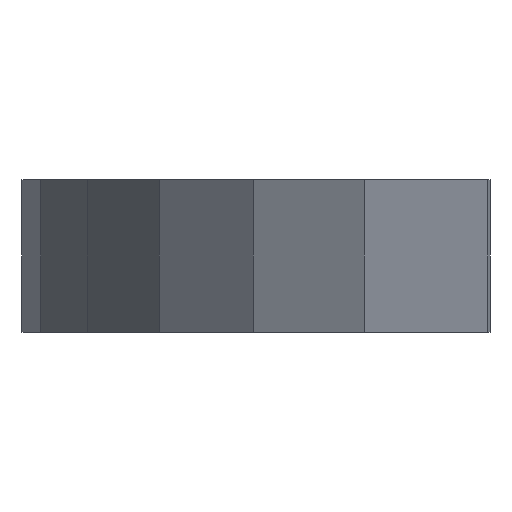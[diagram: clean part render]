
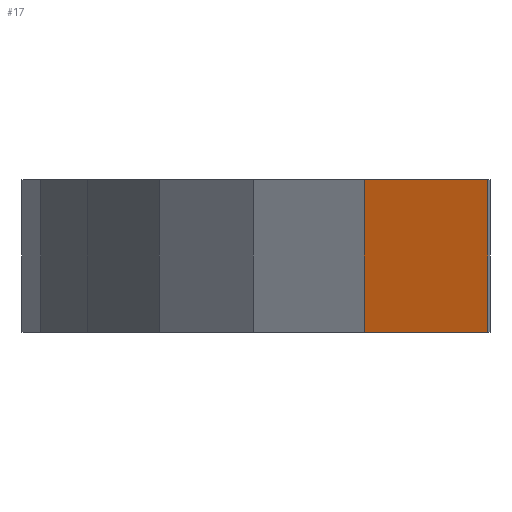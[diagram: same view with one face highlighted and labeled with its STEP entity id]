
A CAD part, left-side view. The second image highlights one B-rep face of the part: STEP entity #17.
In plain terms, the highlighted planar face has unit normal (-0.934, 0.358, 0).
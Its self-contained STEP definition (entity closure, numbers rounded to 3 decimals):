
#17 = ADVANCED_FACE('',(#18),#32,.F.);
#18 = FACE_BOUND('',#19,.F.);
#19 = EDGE_LOOP('',(#20,#55,#80,#108));
#20 = ORIENTED_EDGE('',*,*,#21,.T.);
#21 = EDGE_CURVE('',#22,#24,#26,.T.);
#22 = VERTEX_POINT('',#23);
#23 = CARTESIAN_POINT('',(-195.63,35.969,120.));
#24 = VERTEX_POINT('',#25);
#25 = CARTESIAN_POINT('',(-181.75,72.2,120.));
#26 = SURFACE_CURVE('',#27,(#31,#43),.PCURVE_S1.);
#27 = LINE('',#28,#29);
#28 = CARTESIAN_POINT('',(-195.63,35.969,120.));
#29 = VECTOR('',#30,1.);
#30 = DIRECTION('',(0.358,0.934,0.));
#31 = PCURVE('',#32,#37);
#32 = PLANE('',#33);
#33 = AXIS2_PLACEMENT_3D('',#34,#35,#36);
#34 = CARTESIAN_POINT('',(-195.63,35.969,165.));
#35 = DIRECTION('',(0.934,-0.358,0.));
#36 = DIRECTION('',(0.358,0.934,0.));
#37 = DEFINITIONAL_REPRESENTATION('',(#38),#42);
#38 = LINE('',#39,#40);
#39 = CARTESIAN_POINT('',(0.,-45.));
#40 = VECTOR('',#41,1.);
#41 = DIRECTION('',(1.,0.));
#42 = ( GEOMETRIC_REPRESENTATION_CONTEXT(2) 
PARAMETRIC_REPRESENTATION_CONTEXT() REPRESENTATION_CONTEXT('2D SPACE',''
  ) );
#43 = PCURVE('',#44,#49);
#44 = PLANE('',#45);
#45 = AXIS2_PLACEMENT_3D('',#46,#47,#48);
#46 = CARTESIAN_POINT('',(-195.63,35.969,120.));
#47 = DIRECTION('',(0.,0.,1.));
#48 = DIRECTION('',(0.809,0.587,-0.));
#49 = DEFINITIONAL_REPRESENTATION('',(#50),#54);
#50 = LINE('',#51,#52);
#51 = CARTESIAN_POINT('',(0.,0.));
#52 = VECTOR('',#53,1.);
#53 = DIRECTION('',(0.838,0.546));
#54 = ( GEOMETRIC_REPRESENTATION_CONTEXT(2) 
PARAMETRIC_REPRESENTATION_CONTEXT() REPRESENTATION_CONTEXT('2D SPACE',''
  ) );
#55 = ORIENTED_EDGE('',*,*,#56,.T.);
#56 = EDGE_CURVE('',#24,#57,#59,.T.);
#57 = VERTEX_POINT('',#58);
#58 = CARTESIAN_POINT('',(-181.75,72.2,165.));
#59 = SURFACE_CURVE('',#60,(#63,#69),.PCURVE_S1.);
#60 = B_SPLINE_CURVE_WITH_KNOTS('',1,(#61,#62),.UNSPECIFIED.,.F.,.F.,(2,
    2),(0.,1.),.PIECEWISE_BEZIER_KNOTS.);
#61 = CARTESIAN_POINT('',(-181.75,72.2,120.));
#62 = CARTESIAN_POINT('',(-181.75,72.2,165.));
#63 = PCURVE('',#32,#64);
#64 = DEFINITIONAL_REPRESENTATION('',(#65),#68);
#65 = B_SPLINE_CURVE_WITH_KNOTS('',1,(#66,#67),.UNSPECIFIED.,.F.,.F.,(2,
    2),(0.,1.),.PIECEWISE_BEZIER_KNOTS.);
#66 = CARTESIAN_POINT('',(38.798,-45.));
#67 = CARTESIAN_POINT('',(38.798,0.));
#68 = ( GEOMETRIC_REPRESENTATION_CONTEXT(2) 
PARAMETRIC_REPRESENTATION_CONTEXT() REPRESENTATION_CONTEXT('2D SPACE',''
  ) );
#69 = PCURVE('',#70,#75);
#70 = PLANE('',#71);
#71 = AXIS2_PLACEMENT_3D('',#72,#73,#74);
#72 = CARTESIAN_POINT('',(-181.75,72.2,165.));
#73 = DIRECTION('',(0.821,-0.571,0.));
#74 = DIRECTION('',(0.571,0.821,0.));
#75 = DEFINITIONAL_REPRESENTATION('',(#76),#79);
#76 = B_SPLINE_CURVE_WITH_KNOTS('',1,(#77,#78),.UNSPECIFIED.,.F.,.F.,(2,
    2),(0.,1.),.PIECEWISE_BEZIER_KNOTS.);
#77 = CARTESIAN_POINT('',(0.,-45.));
#78 = CARTESIAN_POINT('',(0.,0.));
#79 = ( GEOMETRIC_REPRESENTATION_CONTEXT(2) 
PARAMETRIC_REPRESENTATION_CONTEXT() REPRESENTATION_CONTEXT('2D SPACE',''
  ) );
#80 = ORIENTED_EDGE('',*,*,#81,.F.);
#81 = EDGE_CURVE('',#82,#57,#84,.T.);
#82 = VERTEX_POINT('',#83);
#83 = CARTESIAN_POINT('',(-195.63,35.969,165.));
#84 = SURFACE_CURVE('',#85,(#89,#96),.PCURVE_S1.);
#85 = LINE('',#86,#87);
#86 = CARTESIAN_POINT('',(-195.63,35.969,165.));
#87 = VECTOR('',#88,1.);
#88 = DIRECTION('',(0.358,0.934,0.));
#89 = PCURVE('',#32,#90);
#90 = DEFINITIONAL_REPRESENTATION('',(#91),#95);
#91 = LINE('',#92,#93);
#92 = CARTESIAN_POINT('',(0.,0.));
#93 = VECTOR('',#94,1.);
#94 = DIRECTION('',(1.,0.));
#95 = ( GEOMETRIC_REPRESENTATION_CONTEXT(2) 
PARAMETRIC_REPRESENTATION_CONTEXT() REPRESENTATION_CONTEXT('2D SPACE',''
  ) );
#96 = PCURVE('',#97,#102);
#97 = PLANE('',#98);
#98 = AXIS2_PLACEMENT_3D('',#99,#100,#101);
#99 = CARTESIAN_POINT('',(-195.63,35.969,165.));
#100 = DIRECTION('',(0.,0.,1.));
#101 = DIRECTION('',(0.809,0.587,-0.));
#102 = DEFINITIONAL_REPRESENTATION('',(#103),#107);
#103 = LINE('',#104,#105);
#104 = CARTESIAN_POINT('',(0.,0.));
#105 = VECTOR('',#106,1.);
#106 = DIRECTION('',(0.838,0.546));
#107 = ( GEOMETRIC_REPRESENTATION_CONTEXT(2) 
PARAMETRIC_REPRESENTATION_CONTEXT() REPRESENTATION_CONTEXT('2D SPACE',''
  ) );
#108 = ORIENTED_EDGE('',*,*,#109,.F.);
#109 = EDGE_CURVE('',#22,#82,#110,.T.);
#110 = SURFACE_CURVE('',#111,(#114,#120),.PCURVE_S1.);
#111 = B_SPLINE_CURVE_WITH_KNOTS('',1,(#112,#113),.UNSPECIFIED.,.F.,.F.,
  (2,2),(0.,1.),.PIECEWISE_BEZIER_KNOTS.);
#112 = CARTESIAN_POINT('',(-195.63,35.969,120.));
#113 = CARTESIAN_POINT('',(-195.63,35.969,165.));
#114 = PCURVE('',#32,#115);
#115 = DEFINITIONAL_REPRESENTATION('',(#116),#119);
#116 = B_SPLINE_CURVE_WITH_KNOTS('',1,(#117,#118),.UNSPECIFIED.,.F.,.F.,
  (2,2),(0.,1.),.PIECEWISE_BEZIER_KNOTS.);
#117 = CARTESIAN_POINT('',(0.,-45.));
#118 = CARTESIAN_POINT('',(0.,0.));
#119 = ( GEOMETRIC_REPRESENTATION_CONTEXT(2) 
PARAMETRIC_REPRESENTATION_CONTEXT() REPRESENTATION_CONTEXT('2D SPACE',''
  ) );
#120 = PCURVE('',#121,#126);
#121 = PLANE('',#122);
#122 = AXIS2_PLACEMENT_3D('',#123,#124,#125);
#123 = CARTESIAN_POINT('',(-192.206,35.241,165.));
#124 = DIRECTION('',(0.208,0.978,-0.));
#125 = DIRECTION('',(-0.978,0.208,0.));
#126 = DEFINITIONAL_REPRESENTATION('',(#127),#130);
#127 = B_SPLINE_CURVE_WITH_KNOTS('',1,(#128,#129),.UNSPECIFIED.,.F.,.F.,
  (2,2),(0.,1.),.PIECEWISE_BEZIER_KNOTS.);
#128 = CARTESIAN_POINT('',(3.5,-45.));
#129 = CARTESIAN_POINT('',(3.5,0.));
#130 = ( GEOMETRIC_REPRESENTATION_CONTEXT(2) 
PARAMETRIC_REPRESENTATION_CONTEXT() REPRESENTATION_CONTEXT('2D SPACE',''
  ) );
